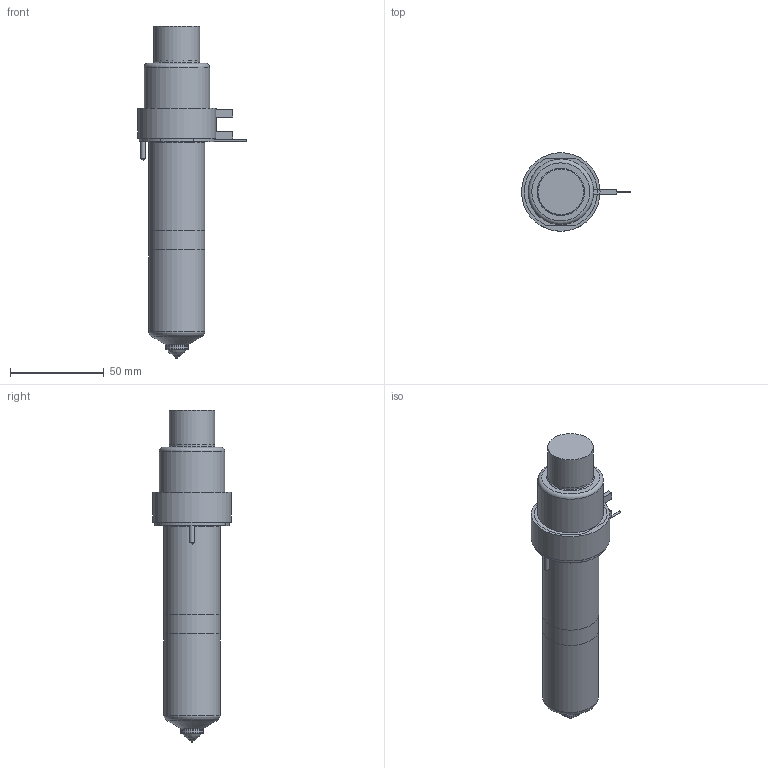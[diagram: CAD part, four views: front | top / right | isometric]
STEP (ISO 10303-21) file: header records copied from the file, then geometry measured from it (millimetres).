
FILE_DESCRIPTION(/* description */ (''),/* implementation_level */ '2;1');
FILE_NAME(/* name */ 'SXTT-SXIT16115_200C_b',/* time_stamp */ '2007-01-24T17:20:35+13:00',/* author */ (''),/* organization */ (''),/* preprocessor_version */ 'ST-DEVELOPER v9',/* originating_system */ 'UGS - NX 4.0',/* authorisation */ '');
FILE_SCHEMA (('CONFIG_CONTROL_DESIGN'));
Length unit declared in the file: millimetre
Products named in the file (1): SXTT-SXIT16115_200C_b
Bounding box: 58.25 x 42 x 177.5 mm (x, y, z)
Volume: 232597.4 mm3; surface area: 38850.8 mm2
Topology: 7 solids, 7 shells, 96 faces, 188 edges, 120 vertices
Faces by surface type: plane 45, cylinder 28, cone 11, torus 10, bspline 2
Full cylindrical faces by diameter (mm): 1 x4, 2.5 x2, 7 x1, 11.61 x1, 12.01 x2, 14.8 x1, 24 x1, 24.4 x1, 25.4 x1, 30 x2, 31.8 x1, 35 x1, 40 x1, 42 x1
Entity records: 2353 total; most frequent: CARTESIAN_POINT 477, DIRECTION 396, ORIENTED_EDGE 276, AXIS2_PLACEMENT_3D 173, EDGE_LOOP 150, EDGE_CURVE 138, VERTEX_POINT 111, ADVANCED_FACE 96
